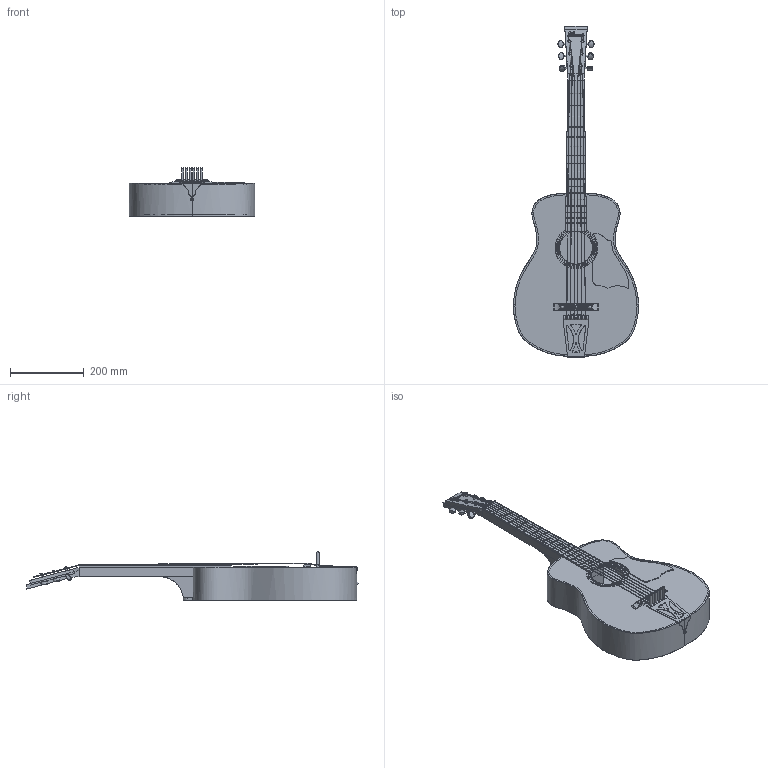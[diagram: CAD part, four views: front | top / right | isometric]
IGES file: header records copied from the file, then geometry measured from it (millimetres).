
Global section: file name: Z:\01-Projects\2011\NXTutorials\Models\Guitar\guitar.igs; native system: NX V6.0; preprocessor: SIEMENS UGS NX 6.0; date: 20110811.152914; units: inch
Bounding box: 340.2 x 900.2 x 130.82 mm (x, y, z)
Surface area: 1056457.6 mm2 (no closed solid volume)
Topology: 0 solids, 0 shells, 679 faces, 5795 edges, 6059 vertices
Faces by surface type: bspline 677, offset 2
